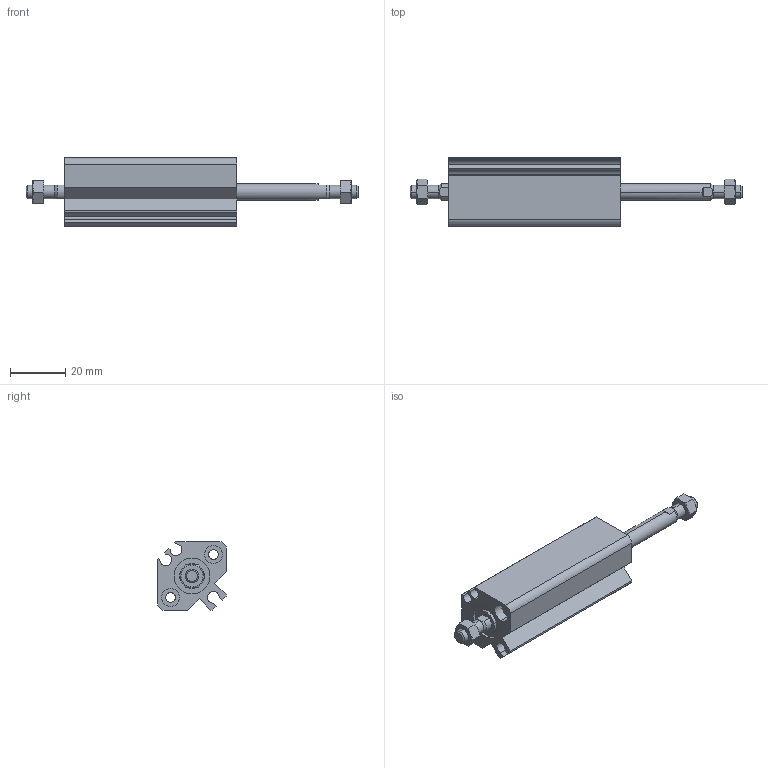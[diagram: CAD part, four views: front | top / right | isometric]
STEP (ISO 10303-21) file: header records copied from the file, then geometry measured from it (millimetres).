
FILE_DESCRIPTION (( 'STEP AP203' ), '1' );
FILE_NAME ('CCMB12-30M-P.STEP', '2020-08-10T10:57:03', ( '' ), ( '' ), 'SwSTEP 2.0', 'SolidWorks 2019', '' );
FILE_SCHEMA (( 'CONFIG_CONTROL_DESIGN' ));
Length unit declared in the file: millimetre
Products named in the file (1): CCMB12-30M-P
Bounding box: 120.4 x 25 x 25 mm (x, y, z)
Volume: 28792.1 mm3; surface area: 15660 mm2
Topology: 4 solids, 4 shells, 161 faces, 369 edges, 230 vertices
Faces by surface type: plane 63, cylinder 54, cone 44
Entity records: 4994 total; most frequent: CARTESIAN_POINT 1273, DIRECTION 777, ORIENTED_EDGE 738, EDGE_CURVE 369, AXIS2_PLACEMENT_3D 310, VERTEX_POINT 230, EDGE_LOOP 185, ADVANCED_FACE 161
